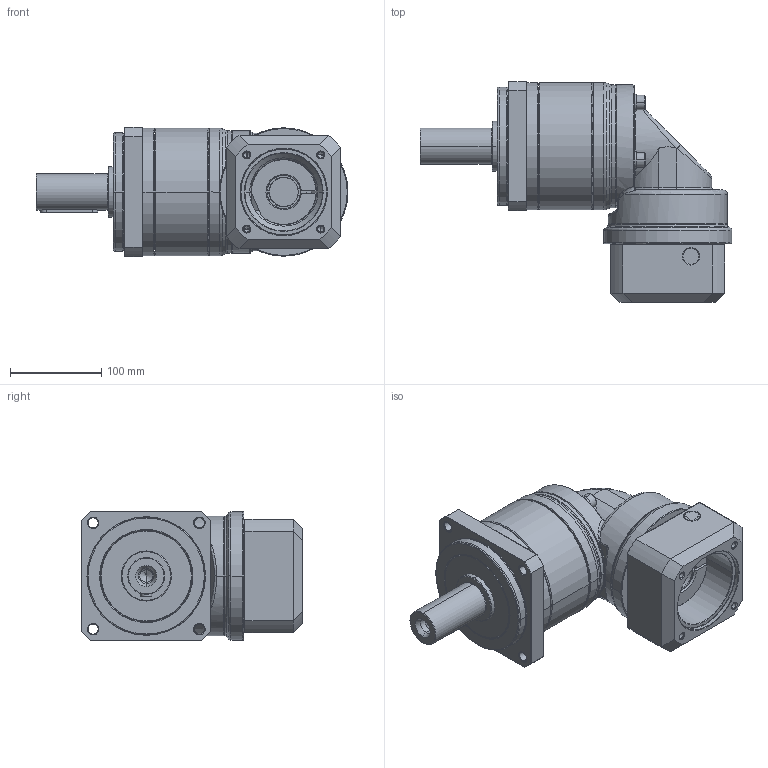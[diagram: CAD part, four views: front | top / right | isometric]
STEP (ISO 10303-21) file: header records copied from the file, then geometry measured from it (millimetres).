
FILE_DESCRIPTION((''),'2;1');
FILE_NAME('PA2R-142_1ST_32-P0411700101_ASM','2016-05-13T',('d01943'),(''),'PRO/ENGINEER BY PARAMETRIC TECHNOLOGY CORPORATION, 2008410','PRO/ENGINEER BY PARAMETRIC TECHNOLOGY CORPORATION, 2008410','');
FILE_SCHEMA(('CONFIG_CONTROL_DESIGN'));
Length unit declared in the file: millimetre
Products named in the file (12): P1327510001; P0250500001; P0350500601; P1349500001; P1017500001; P0713503001; P0503700010; P1350500301; P0411700101; P1702600001; 2111BA10040; PA2R-142_1ST_32-P0411700101_ASM
Assembly tree (14 placements, depth 2):
  PA2R-142_1ST_32-P0411700101_ASM
    P1327510001
    P0250500001
    P0350500601
    P1349500001
    P1017500001
    P0713503001
    P0503700010
    P1350500301
    P0411700101
    P1702600001
    2111BA10040  x4
Bounding box: 342.5 x 242.5 x 142 mm (x, y, z)
Volume: 3099766.7 mm3; surface area: 491401.3 mm2
Topology: 14 solids, 14 shells, 719 faces, 1590 edges, 921 vertices
Faces by surface type: cylinder 212, cone 208, plane 167, torus 100, bspline 32
Entity records: 23172 total; most frequent: CARTESIAN_POINT 9254, DIRECTION 3063, ORIENTED_EDGE 2708, EDGE_CURVE 1354, AXIS2_PLACEMENT_3D 1289, VERTEX_POINT 801, EDGE_LOOP 699, CIRCLE 675
